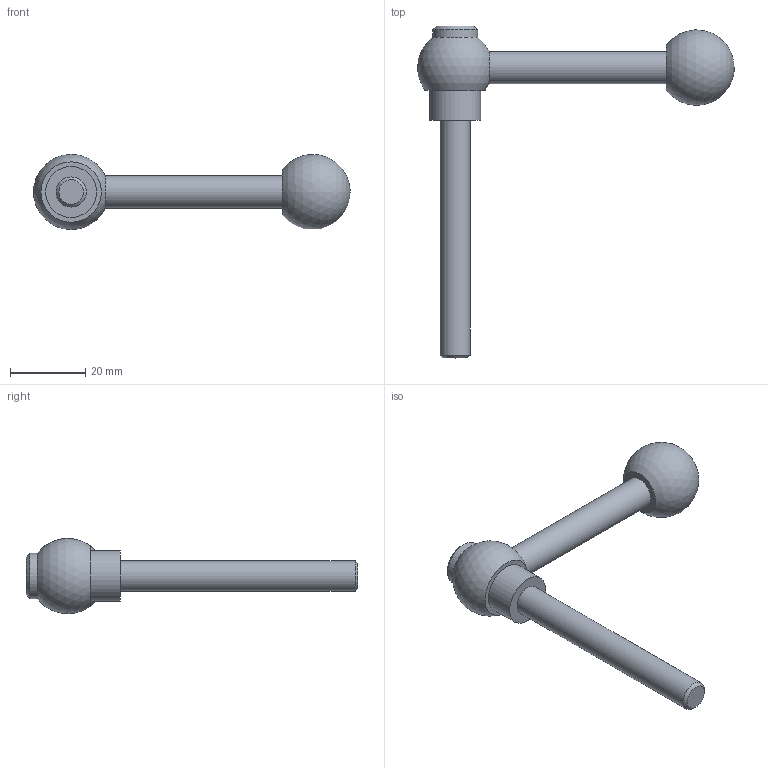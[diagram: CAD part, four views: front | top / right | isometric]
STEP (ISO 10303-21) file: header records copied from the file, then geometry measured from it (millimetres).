
FILE_DESCRIPTION( ( 'STEP AP203' ), '1' );
FILE_NAME( 'C:/Temp/Ganter_Step_05_03_2020/data/2_1/gn_6337_3/gn_6337_3_ms/gn_6337_3_ms_m/Adjustable clamping lever with bolt GN 6337.3-20-M8-63-M.stp', '2020-03-05T11:41:13', ( 'License CC BY-ND 4.0' ), ( 'CADENAS' ), ' ', 'PARTsolutions', ' ' );
FILE_SCHEMA( ( 'CONFIG_CONTROL_DESIGN' ) );
Length unit declared in the file: millimetre
Products named in the file (1): _Adjustable clamping lever with bolt GN 6337.3-20-M8-63-M
Bounding box: 83.92 x 88 x 19.99 mm (x, y, z)
Volume: 14970.5 mm3; surface area: 5575.6 mm2
Topology: 1 solids, 1 shells, 13 faces, 23 edges, 15 vertices
Faces by surface type: plane 5, cylinder 4, cone 2, sphere 2
Full cylindrical faces by diameter (mm): 8 x1, 8.5 x1, 12 x1, 13.5 x1
Entity records: 302 total; most frequent: DIRECTION 52, CARTESIAN_POINT 39, AXIS2_PLACEMENT_3D 26, EDGE_LOOP 24, ORIENTED_EDGE 24, FACE_OUTER_BOUND 18, ADVANCED_FACE 13, VERTEX_POINT 13
